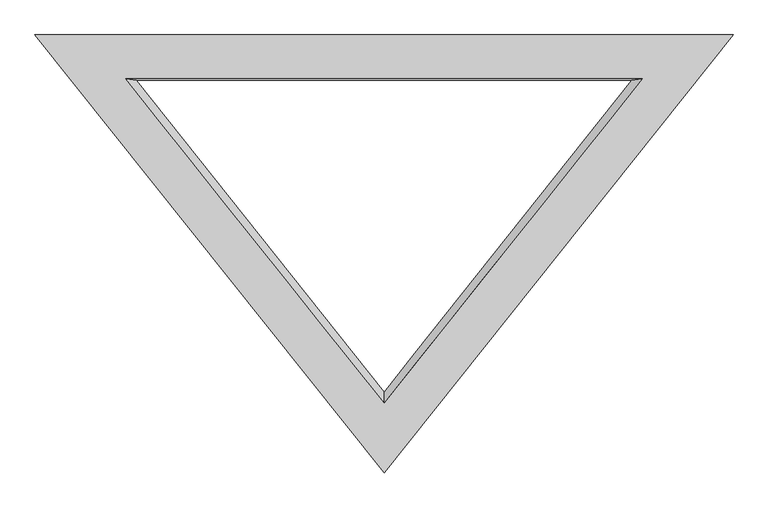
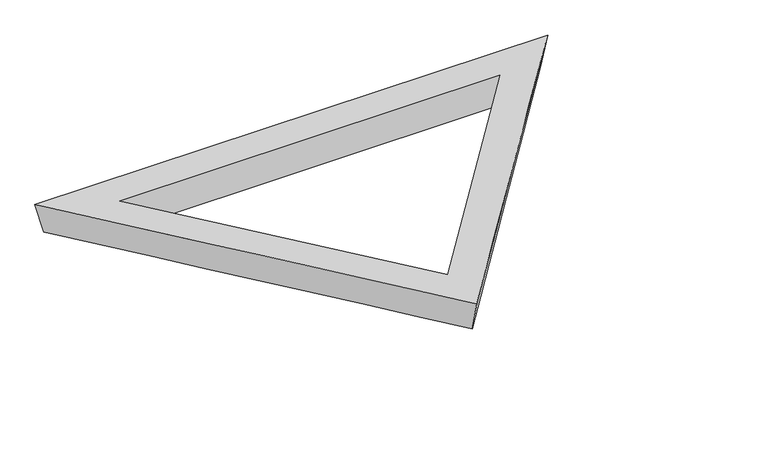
"""IFC4 building model written with IfcOpenShell, lengths in millimetres: plate geometry."""

import ifcopenshell
import ifcopenshell.guid

model = None  # the IFC model being written
_history = None  # IfcOwnerHistory: only IFC2X3 demands one
_inside = {}  # id of a spatial element -> (the spatial element, [elements in it])
_under = {}  # id of a project, library or spatial element -> (it, [spatial elements below it])
_declared = {}  # id of a project -> (the project, [libraries it declares])
_typed = {}  # id of a type object -> (the type object, [elements of that type])
_made_of = {}  # id of a material, layer set ... -> (it, [elements and type objects made of it])


def new_model(schema):
    """Start an empty IFC model of exactly this schema.

    Asked for "IFC4X3", IfcOpenShell would pick the latest addendum, in which some entities
    have other attributes; the version numbers below select the first issue.
    IFC2X3 requires an IfcOwnerHistory on every rooted entity: one is made here for all.
    """
    global model, _history
    if schema == "IFC4X3":
        model = ifcopenshell.file(schema_version=(4, 3, 0, 0))
    else:
        model = ifcopenshell.file(schema=schema)
    _inside.clear()
    _under.clear()
    _declared.clear()
    _typed.clear()
    _made_of.clear()
    _history = None
    if model.schema == "IFC2X3":
        org = make("IfcOrganization", Name="unknown")
        user = make(
            "IfcPersonAndOrganization",
            ThePerson=make("IfcPerson", FamilyName="unknown"),
            TheOrganization=org,
        )
        app = make(
            "IfcApplication",
            ApplicationDeveloper=org,
            Version="unknown",
            ApplicationFullName="unknown",
            ApplicationIdentifier="unknown",
        )
        _history = make(
            "IfcOwnerHistory",
            OwningUser=user,
            OwningApplication=app,
            ChangeAction="ADDED",
            CreationDate=0,
        )
    return model


def make(cls, **values):
    """One entity of the class cls with the attributes given. An attribute that is None is left unset."""
    return model.create_entity(
        cls, **{name: value for name, value in values.items() if value is not None}
    )


def rooted(cls, **values):
    """An entity with a GlobalId (a new one), such as an element, a storey or a relation."""
    return make(cls, GlobalId=ifcopenshell.guid.new(), OwnerHistory=_history, **values)


def si_unit(unit_type, name, prefix=None):
    """IfcSIUnit, for example si_unit("LENGTHUNIT", "METRE", prefix="MILLI")."""
    return make("IfcSIUnit", UnitType=unit_type, Prefix=prefix, Name=name)


def assignment(units):
    """IfcUnitAssignment: the units of a project."""
    return None if units is None else make("IfcUnitAssignment", Units=units)


def point(xyz):
    """IfcCartesianPoint."""
    return None if xyz is None else make("IfcCartesianPoint", Coordinates=xyz)


def direction(xyz):
    """IfcDirection."""
    return None if xyz is None else make("IfcDirection", DirectionRatios=xyz)


def frame(location, z_axis=None, x_axis=None):
    """IfcAxis2Placement3D, a coordinate frame: its origin and axes. An axis left out is left unset."""
    return make(
        "IfcAxis2Placement3D",
        Location=point(location),
        Axis=direction(z_axis),
        RefDirection=direction(x_axis),
    )


def origin():
    """The frame at (0, 0, 0) with its axes left unset."""
    return frame((0.0, 0.0, 0.0))


def place(relative_to, where):
    """IfcLocalPlacement: puts the frame where relative to a parent placement (None: the world)."""
    return make(
        "IfcLocalPlacement", PlacementRelTo=relative_to, RelativePlacement=where
    )


def context(
    kind, dimensions, precision=None, world=None, true_north=None, identifier=None
):
    """IfcGeometricRepresentationContext, for example the 3D "Model" context."""
    return make(
        "IfcGeometricRepresentationContext",
        ContextIdentifier=identifier,
        ContextType=kind,
        CoordinateSpaceDimension=dimensions,
        Precision=precision,
        WorldCoordinateSystem=world,
        TrueNorth=true_north,
    )


def project(units=None, contexts=None):
    """IfcProject with its units and contexts."""
    return rooted(
        "IfcProject",
        Name="project",
        RepresentationContexts=contexts,
        UnitsInContext=assignment(units),
    )


def spatial(cls, under=None, at=None, **own):
    """A site, building, storey or space (cls), placed at a placement, below another one or the project."""
    s = rooted(cls, ObjectPlacement=at, **own)
    if under is not None:
        _under.setdefault(under.id(), (under, []))[1].append(s)
    return s


def shape(context_of_items, identifier, shape_type, items):
    """IfcShapeRepresentation: the items that make up one representation, for example the "Body"."""
    return make(
        "IfcShapeRepresentation",
        ContextOfItems=context_of_items,
        RepresentationIdentifier=identifier,
        RepresentationType=shape_type,
        Items=items,
    )


def source(mapping_origin, context_of_items, identifier, shape_type, items):
    """IfcRepresentationMap: a shape defined once, which mapped items show again and again."""
    return make(
        "IfcRepresentationMap",
        MappingOrigin=mapping_origin,
        MappedRepresentation=shape(context_of_items, identifier, shape_type, items),
    )


def transform(
    local_origin,
    x_axis=None,
    y_axis=None,
    z_axis=None,
    scale=None,
    scale2=None,
    scale3=None,
    uniform=True,
):
    """IfcCartesianTransformationOperator3D, or its non-uniform kind. x_axis, y_axis, z_axis: its Axis1, 2, 3."""
    if uniform:
        return make(
            "IfcCartesianTransformationOperator3D",
            Axis1=direction(x_axis),
            Axis2=direction(y_axis),
            LocalOrigin=point(local_origin),
            Scale=scale,
            Axis3=direction(z_axis),
        )
    return make(
        "IfcCartesianTransformationOperator3DnonUniform",
        Axis1=direction(x_axis),
        Axis2=direction(y_axis),
        LocalOrigin=point(local_origin),
        Scale=scale,
        Axis3=direction(z_axis),
        Scale2=scale2,
        Scale3=scale3,
    )


def mapped(mapping_source, mapping_target):
    """IfcMappedItem: shows the shape of a source again, moved by a transform."""
    return make(
        "IfcMappedItem", MappingSource=mapping_source, MappingTarget=mapping_target
    )


def made_of(thing, what):
    """Note that an element or type object is made of a material, layer set ...; save() writes the relation."""
    if what is not None:
        _made_of.setdefault(what.id(), (what, []))[1].append(thing)
    return thing


def element(
    cls,
    number,
    at=None,
    inside=None,
    cuts=None,
    type_object=None,
    material=None,
    context=None,
    identifier="Body",
    shape_type=None,
    held_by="IfcProductDefinitionShape",
    body=None,
    shapes=None,
    **own,
):
    """One element of the class cls, such as IfcWall. Its Tag is "e" and its number.

    at: its placement. inside: the storey or other place that contains it. cuts: it is an
    opening in that element (IfcRelVoidsElement). A single representation is given by context,
    identifier, shape_type and body (its items); several are given by shapes. held_by: the class
    of the entity that holds the representations. save() writes the other relations.
    """
    e = rooted(cls, Tag="e%d" % number, ObjectPlacement=at, **own)
    if body is not None:
        shapes = [shape(context, identifier, shape_type, body)]
    if shapes is not None:
        e.Representation = make(held_by, Representations=shapes)
    if inside is not None:
        _inside.setdefault(inside.id(), (inside, []))[1].append(e)
    if cuts is not None:
        rooted(
            "IfcRelVoidsElement", RelatingBuildingElement=cuts, RelatedOpeningElement=e
        )
    if type_object is not None:
        _typed.setdefault(type_object.id(), (type_object, []))[1].append(e)
    return made_of(e, material)


def aggregate(whole, parts):
    """IfcRelAggregates: a whole, such as a stair, and the parts it consists of."""
    return rooted("IfcRelAggregates", RelatingObject=whole, RelatedObjects=parts)


def save(model, path):
    """Write the relations noted so far, then the file.

    IfcRelAggregates (storeys below a building ...), IfcRelContainedInSpatialStructure (elements
    in a storey), IfcRelDefinesByType, IfcRelAssociatesMaterial and IfcRelDeclares: one each for
    every whole, place, type object, material and project.
    """
    for whole, parts in _under.values():
        aggregate(whole, parts)
    for where, things in _inside.values():
        rooted(
            "IfcRelContainedInSpatialStructure",
            RelatedElements=things,
            RelatingStructure=where,
        )
    for kind, things in _typed.values():
        rooted("IfcRelDefinesByType", RelatedObjects=things, RelatingType=kind)
    for what, things in _made_of.values():
        rooted("IfcRelAssociatesMaterial", RelatedObjects=things, RelatingMaterial=what)
    for by, libraries in _declared.values():
        rooted("IfcRelDeclares", RelatingContext=by, RelatedDefinitions=libraries)
    model.write(path)


def plane_surface(at):
    """IfcPlane: the flat surface through the origin of the frame at, square to its z axis."""
    return make("IfcPlane", Position=at)


def spline_surface(u_degree, v_degree, points, u_multiplicities, v_multiplicities, u_knots, v_knots, weights=None):
    """IfcBSplineSurfaceWithKnots; with weights, IfcRationalBSplineSurfaceWithKnots. points: one row for each step in u."""
    own = dict(
        UDegree=u_degree,
        VDegree=v_degree,
        ControlPointsList=[[point(p) for p in row] for row in points],
        SurfaceForm="UNSPECIFIED",
        UClosed=False,
        VClosed=False,
        SelfIntersect=False,
        UMultiplicities=u_multiplicities,
        VMultiplicities=v_multiplicities,
        UKnots=u_knots,
        VKnots=v_knots,
        KnotSpec="UNSPECIFIED",
    )
    if weights is None:
        return make("IfcBSplineSurfaceWithKnots", **own)
    return make("IfcRationalBSplineSurfaceWithKnots", WeightsData=weights, **own)


def advanced_brep(points, edges, surfaces, faces):
    """IfcAdvancedBrep: a solid bounded by faces that lie on surfaces and meet in shared edges.

    An edge is (start, end): straight between two places in points (the first is 0);
    or (start, end, curve); or (start, end, curve, False) where it runs against its curve.
    A face is (place in surfaces, loops), or (place, loops, False) where it looks against
    its surface's normal. A loop lists edges by number (the first is 1), with a minus sign
    where the edge is run from its end to its start. The first loop is the outer one.
    """
    corners = [point(p) for p in points]
    vertices = [make("IfcVertexPoint", VertexGeometry=c) for c in corners]
    made = []
    for start, end, *more in edges:
        made.append(
            make(
                "IfcEdgeCurve",
                EdgeStart=vertices[start],
                EdgeEnd=vertices[end],
                EdgeGeometry=more[0] if more else make("IfcPolyline", Points=[corners[start], corners[end]]),
                SameSense=more[1] if len(more) > 1 else True,
            )
        )
    hull = []
    for where, loops, *sense in faces:
        bounds = []
        for j, loop in enumerate(loops):
            ring = [make("IfcOrientedEdge", EdgeElement=made[abs(k) - 1], Orientation=k > 0) for k in loop]
            bounds.append(
                make(
                    "IfcFaceOuterBound" if j == 0 else "IfcFaceBound",
                    Bound=make("IfcEdgeLoop", EdgeList=ring),
                    Orientation=True,
                )
            )
        hull.append(make("IfcAdvancedFace", Bounds=bounds, FaceSurface=surfaces[where], SameSense=sense[0] if sense else True))
    return make("IfcAdvancedBrep", Outer=make("IfcClosedShell", CfsFaces=hull))


def plate_e955eb94(model_context):
    return source(origin(), model_context, "Body", "AdvancedBrep", [
        advanced_brep(
        [(4941.6836635, 5537.9861046, 0.0), (4892.3134518, 5545.0827196, 196.7778026), (6096.0, 4035.9119861, 197.4104311), (6096.0, 4084.3808064, 0.0), (7299.6865482, 5545.0827196, 196.7778026), (7250.3163365, 5537.9861046, 0.0), (6096.0, 3757.6277908, 0.0), (7671.1550774, 5741.1861046, 0.0), (7721.6713147, 5748.2827017, 196.6926233), (6096.0, 3710.0314859, 197.5470368), (4520.8449226, 5741.1861046, 0.0), (4470.3286853, 5748.2827017, 196.6926233)],
        [
            (0, 1),
            (1, 2),
            (2, 3),
            (3, 0),
            (2, 4),
            (4, 5),
            (5, 3),
            (0, 5),
            (4, 1),
            (6, 7),
            (7, 8),
            (8, 9),
            (9, 6),
            (7, 10),
            (10, 11),
            (11, 8),
            (9, 11),
            (10, 6),
        ],
        [
            spline_surface(1, 1, [[(4941.6836635, 5537.9861046, 0.0), (6096.0, 4084.3808064, 0.0)], [(4892.3134518, 5545.0827196, 196.7778026), (6096.0, 4035.9119861, 197.4104311)]], [2, 2], [2, 2], [0.0, 1.0], [0.0, 1.0]),
            spline_surface(1, 1, [[(6096.0, 4084.3808064, 0.0), (7250.3163365, 5537.9861046, 0.0)], [(6096.0, 4035.9119861, 197.4104311), (7299.6865482, 5545.0827196, 196.7778026)]], [2, 2], [2, 2], [0.0, 1.0], [0.0, 1.0]),
            plane_surface(frame((6096.0, 5537.9861046, 0.0), z_axis=(0.0, -0.9993503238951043, 0.03604067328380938), x_axis=(-1.0, 0.0, 0.0))),
            spline_surface(1, 1, [[(6096.0, 3757.6277908, 0.0), (6096.0, 3710.0314859, 197.5470368)], [(7671.1550774, 5741.1861046, 0.0), (7721.6713147, 5748.2827017, 196.6926233)]], [2, 2], [2, 2], [0.0, 1.0], [0.0, 1.0]),
            plane_surface(frame((6096.0, 5741.1861046, 0.0), z_axis=(0.0, 0.9993497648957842, -0.03605617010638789), x_axis=(-1.0, 0.0, 0.0))),
            spline_surface(1, 1, [[(4520.8449226, 5741.1861046, 0.0), (4470.3286853, 5748.2827017, 196.6926233)], [(6096.0, 3757.6277908, 0.0), (6096.0, 3710.0314859, 197.5470368)]], [2, 2], [2, 2], [0.0, 1.0], [0.0, 1.0]),
            plane_surface(frame((6096.0, 5068.8656298, 196.9774278), z_axis=(0.0, 0.00041918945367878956, 0.9999999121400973), x_axis=(0.6235413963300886, -0.7817902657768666, 0.00032771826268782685))),
            plane_surface(frame((6096.0, 5080.0, 0.0), z_axis=(0.0, 0.0, -1.0), x_axis=(-0.6218764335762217, 0.7831153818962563, 0.0))),
        ],
        [
            (0, [[1, 2, 3, 4]]),
            (1, [[-3, 5, 6, 7]]),
            (2, [[-1, 8, -6, 9]]),
            (3, [[10, 11, 12, 13]]),
            (4, [[-11, 14, 15, 16]]),
            (5, [[-13, 17, -15, 18]]),
            (6, [[-12, -16, -17], [-2, -9, -5]]),
            (7, [[-10, -18, -14], [-4, -7, -8]]),
        ],
    ),
    ])


if __name__ == "__main__":
    model = new_model("IFC4")
    model_context = context("Model", 3, world=origin())
    ifc_project = project(units=[si_unit("LENGTHUNIT", "METRE", prefix="MILLI")], contexts=[model_context])
    site = spatial("IfcSite", under=ifc_project)
    building = spatial("IfcBuilding", under=site)
    placement = place(None, origin())
    plate_shape = plate_e955eb94(model_context)
    element("IfcPlate", 1, ObjectType="tn_cpanel_patbase_triangle_flat_seamless_frame_02_cylinder : tn_cpanel_pattern_mullion_t8\"xh8\"", at=placement, inside=building, context=model_context, shape_type="MappedRepresentation", body=[
        mapped(plate_shape, transform((0.0, 0.0, 0.0), x_axis=(1.0, 0.0, 0.0), y_axis=(0.0, 1.0, 0.0), z_axis=(0.0, 0.0, 1.0))),
    ])
    save(model, "model.ifc")
